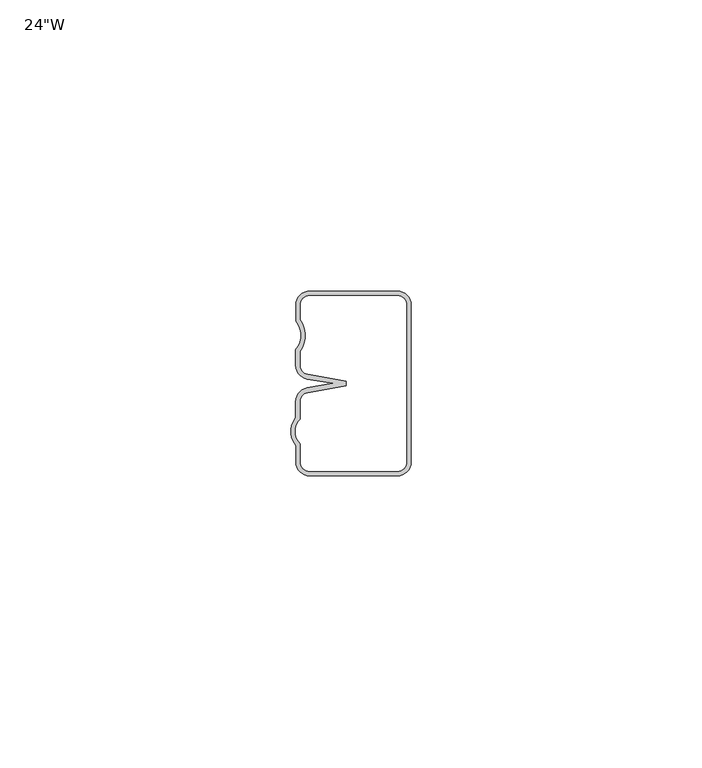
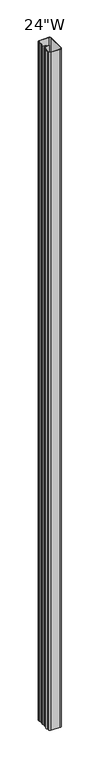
"""IFC4 building model written with IfcOpenShell, lengths in millimetres: furniture geometry."""

from ifc_helpers import new_model, si_unit, frame, origin, place, context, project, spatial, polyline, circle_curve, source, transform, mapped, element, save
from ifc_brep_helpers import plane_surface, cylinder_surface, revolved_surface, advanced_brep


def furniture_98e4637c(model_context):
    return source(origin(), model_context, "Body", "AdvancedBrep", [
        advanced_brep(
        [(17.4307493, 12.7000004, 1249.3625), (19.8119993, 15.0812504, 1249.3625), (19.8119993, 42.0510735, 1249.3625), (17.4130743, 44.4499985, 1249.3625), (2.4384001, 44.4499985, 1249.3625), (0.0, 42.0510735, 1249.3625), (0.0, 39.2275622, 1249.3625), (-0.0245942, 34.360617, 1249.3625), (-0.0245942, 31.6927299, 1249.3625), (1.9584816, 29.3357032, 1249.3625), (6.3910055, 28.566162, 1249.3625), (1.959, 27.7967107, 1249.3625), (-0.0245942, 25.439594, 1249.3625), (-0.0245942, 22.7135456, 1249.3625), (0.0, 17.9047617, 1249.3625), (0.0, 15.0812504, 1249.3625), (2.38125, 12.7000004, 1249.3625), (0.79375, 39.5025989, 1249.3625), (0.79375, 42.0510735, 1249.3625), (2.38125, 43.6385735, 1249.3625), (17.4130743, 43.6562485, 1249.3625), (19.0182493, 42.0510735, 1249.3625), (19.0182493, 15.0812504, 1249.3625), (17.4307493, 13.4937504, 1249.3625), (2.38125, 13.4937504, 1249.3625), (0.79375, 15.0812504, 1249.3625), (0.79375, 18.2153751, 1249.3625), (0.7691558, 22.4079263, 1249.3625), (0.7691558, 25.439594, 1249.3625), (2.0942554, 27.0145692, 1249.3625), (8.7111835, 28.1633502, 1249.3625), (8.7111835, 28.9689737, 1249.3625), (2.0942554, 30.1177547, 1249.3625), (0.7691558, 31.6927299, 1249.3625), (0.7691558, 34.0813213, 1249.3625), (17.4307493, 12.7000004, 130.175), (2.38125, 12.7000004, 130.175), (0.0, 15.0812504, 130.175), (0.0, 17.9047617, 130.175), (-0.0245942, 22.7135456, 130.175), (-0.0245942, 25.439594, 130.175), (1.959, 27.7967107, 130.175), (6.3910055, 28.566162, 130.175), (1.9584816, 29.3357032, 130.175), (-0.0245942, 31.6927299, 130.175), (-0.0245942, 34.360617, 130.175), (0.0, 39.2275622, 130.175), (0.0, 42.0510735, 130.175), (2.38125, 44.4323235, 130.175), (17.4130743, 44.4499985, 130.175), (19.8119993, 42.0510735, 130.175), (19.8119993, 15.0812504, 130.175), (0.79375, 39.5025989, 130.175), (0.7691558, 34.0813213, 130.175), (0.7691558, 31.6927299, 130.175), (2.0942554, 30.1177547, 130.175), (8.7111835, 28.9689737, 130.175), (8.7111835, 28.1633502, 130.175), (2.0942554, 27.0145692, 130.175), (0.7691558, 25.439594, 130.175), (0.7691558, 22.4079263, 130.175), (0.79375, 18.2153751, 130.175), (0.79375, 15.0812504, 130.175), (2.38125, 13.4937504, 130.175), (17.4307493, 13.4937504, 130.175), (19.0182493, 15.0812504, 130.175), (19.0182493, 42.0510735, 130.175), (17.4130743, 43.6562485, 130.175), (2.4384001, 43.6562485, 130.175), (0.79375, 42.0510735, 130.175)],
        [
            (0, 1, circle_curve(frame((17.4307493, 15.0812504, 1249.3625), z_axis=(0.0, 0.0, 1.0), x_axis=(1.0, 0.0, 0.0)), 2.38125)),
            (1, 2),
            (2, 3, circle_curve(frame((17.4130743, 42.0510735, 1249.3625), z_axis=(0.0, 0.0, 1.0), x_axis=(1.0, 0.0, 0.0)), 2.398925)),
            (3, 4),
            (4, 5, circle_curve(frame((2.38125, 42.0510735, 1249.3625), z_axis=(0.0, 0.0, 1.0), x_axis=(1.0, 0.0, 0.0)), 2.38125)),
            (5, 6),
            (6, 7, circle_curve(frame((-2.8600112, 36.80848, 1249.3625), z_axis=(0.0, 0.0, -1.0), x_axis=(1.0, 0.0, 0.0)), 3.7458807)),
            (7, 8),
            (8, 9, circle_curve(frame((2.3676907, 31.6927299, 1249.3625), z_axis=(0.0, 0.0, 1.0), x_axis=(1.0, 0.0, 0.0)), 2.392285)),
            (9, 10),
            (10, 11),
            (11, 12, circle_curve(frame((2.3676907, 25.439594, 1249.3625), z_axis=(0.0, 0.0, 1.0), x_axis=(1.0, 0.0, 0.0)), 2.392285)),
            (12, 13),
            (13, 14, circle_curve(frame((2.8600112, 20.3238439, 1249.3625), z_axis=(0.0, 0.0, 1.0), x_axis=(1.0, 0.0, 0.0)), 3.7458807)),
            (14, 15),
            (15, 16, circle_curve(frame((2.38125, 15.0812504, 1249.3625), z_axis=(0.0, 0.0, 1.0), x_axis=(1.0, 0.0, 0.0)), 2.38125)),
            (16, 0),
            (17, 18),
            (18, 19, circle_curve(frame((2.38125, 42.0510735, 1249.3625), z_axis=(0.0, 0.0, -1.0), x_axis=(1.0, 0.0, 0.0)), 1.5875)),
            (19, 20),
            (20, 21, circle_curve(frame((17.4130743, 42.0510735, 1249.3625), z_axis=(0.0, 0.0, -1.0), x_axis=(1.0, 0.0, 0.0)), 1.605175)),
            (21, 22),
            (22, 23, circle_curve(frame((17.4307493, 15.0812504, 1249.3625), z_axis=(0.0, 0.0, -1.0), x_axis=(1.0, 0.0, 0.0)), 1.5875)),
            (23, 24),
            (24, 25, circle_curve(frame((2.38125, 15.0812504, 1249.3625), z_axis=(0.0, 0.0, -1.0), x_axis=(1.0, 0.0, 0.0)), 1.5875)),
            (25, 26),
            (26, 27, circle_curve(frame((2.8600112, 20.3238439, 1249.3625), z_axis=(0.0, 0.0, -1.0), x_axis=(1.0, 0.0, 0.0)), 2.9521307)),
            (27, 28),
            (28, 29, circle_curve(frame((2.3676907, 25.439594, 1249.3625), z_axis=(0.0, 0.0, -1.0), x_axis=(1.0, 0.0, 0.0)), 1.598535)),
            (29, 30),
            (30, 31),
            (31, 32),
            (32, 33, circle_curve(frame((2.3676907, 31.6927299, 1249.3625), z_axis=(0.0, 0.0, -1.0), x_axis=(1.0, 0.0, 0.0)), 1.598535)),
            (33, 34),
            (34, 17, circle_curve(frame((-2.8600112, 36.80848, 1249.3625), z_axis=(0.0, 0.0, 1.0), x_axis=(1.0, 0.0, 0.0)), 4.5396307)),
            (35, 36),
            (36, 37, circle_curve(frame((2.38125, 15.0812504, 130.175), z_axis=(0.0, 0.0, -1.0), x_axis=(1.0, 0.0, 0.0)), 2.38125)),
            (37, 38),
            (38, 39, circle_curve(frame((2.8600112, 20.3238439, 130.175), z_axis=(0.0, 0.0, -1.0), x_axis=(1.0, 0.0, 0.0)), 3.7458807)),
            (39, 40),
            (40, 41, circle_curve(frame((2.3676907, 25.439594, 130.175), z_axis=(0.0, 0.0, -1.0), x_axis=(1.0, 0.0, 0.0)), 2.392285)),
            (41, 42),
            (42, 43),
            (43, 44, circle_curve(frame((2.3676907, 31.6927299, 130.175), z_axis=(0.0, 0.0, -1.0), x_axis=(1.0, 0.0, 0.0)), 2.392285)),
            (44, 45),
            (45, 46, circle_curve(frame((-2.8600112, 36.80848, 130.175), z_axis=(0.0, 0.0, 1.0), x_axis=(1.0, 0.0, 0.0)), 3.7458807)),
            (46, 47),
            (47, 48, circle_curve(frame((2.38125, 42.0510735, 130.175), z_axis=(0.0, 0.0, -1.0), x_axis=(1.0, 0.0, 0.0)), 2.38125)),
            (48, 49),
            (49, 50, circle_curve(frame((17.4130743, 42.0510735, 130.175), z_axis=(0.0, 0.0, -1.0), x_axis=(1.0, 0.0, 0.0)), 2.398925)),
            (50, 51),
            (51, 35, circle_curve(frame((17.4307493, 15.0812504, 130.175), z_axis=(0.0, 0.0, -1.0), x_axis=(1.0, 0.0, 0.0)), 2.38125)),
            (52, 53, circle_curve(frame((-2.8600112, 36.80848, 130.175), z_axis=(0.0, 0.0, -1.0), x_axis=(1.0, 0.0, 0.0)), 4.5396307)),
            (53, 54),
            (54, 55, circle_curve(frame((2.3676907, 31.6927299, 130.175), z_axis=(0.0, 0.0, 1.0), x_axis=(1.0, 0.0, 0.0)), 1.598535)),
            (55, 56),
            (56, 57),
            (57, 58),
            (58, 59, circle_curve(frame((2.3676907, 25.439594, 130.175), z_axis=(0.0, 0.0, 1.0), x_axis=(1.0, 0.0, 0.0)), 1.598535)),
            (59, 60),
            (60, 61, circle_curve(frame((2.8600112, 20.3238439, 130.175), z_axis=(0.0, 0.0, 1.0), x_axis=(1.0, 0.0, 0.0)), 2.9521307)),
            (61, 62),
            (62, 63, circle_curve(frame((2.38125, 15.0812504, 130.175), z_axis=(0.0, 0.0, 1.0), x_axis=(1.0, 0.0, 0.0)), 1.5875)),
            (63, 64),
            (64, 65, circle_curve(frame((17.4307493, 15.0812504, 130.175), z_axis=(0.0, 0.0, 1.0), x_axis=(1.0, 0.0, 0.0)), 1.5875)),
            (65, 66),
            (66, 67, circle_curve(frame((17.4130743, 42.0510735, 130.175), z_axis=(0.0, 0.0, 1.0), x_axis=(1.0, 0.0, 0.0)), 1.605175)),
            (67, 68),
            (68, 69, circle_curve(frame((2.38125, 42.0510735, 130.175), z_axis=(0.0, 0.0, 1.0), x_axis=(1.0, 0.0, 0.0)), 1.5875)),
            (69, 52),
            (0, 35),
            (51, 1),
            (50, 2),
            (49, 3),
            (48, 4),
            (47, 5),
            (46, 6),
            (45, 7),
            (44, 8),
            (43, 9),
            (42, 10),
            (41, 11),
            (40, 12),
            (39, 13),
            (38, 14),
            (37, 15),
            (36, 16),
            (17, 52),
            (69, 18),
            (68, 19),
            (67, 20),
            (66, 21),
            (65, 22),
            (64, 23),
            (63, 24),
            (62, 25),
            (61, 26),
            (60, 27),
            (59, 28),
            (58, 29),
            (57, 30),
            (31, 56),
            (55, 32),
            (54, 33),
            (53, 34),
        ],
        [
            plane_surface(frame((19.8119993, 15.0812504, 1249.3625), z_axis=(0.0, 0.0, 1.0), x_axis=(0.0, 1.0, 0.0))),
            plane_surface(frame((19.8119993, 15.0812504, 130.175), z_axis=(0.0, 0.0, -1.0), x_axis=(0.0, -1.0, 0.0))),
            cylinder_surface(frame((17.4307493, 15.0812504, 130.175), z_axis=(0.0, 0.0, 1.0), x_axis=(1.0, 0.0, 0.0)), 2.38125),
            plane_surface(frame((19.8119993, 15.0812504, 1249.3625), z_axis=(1.0, 0.0, 0.0), x_axis=(0.0, 0.0, -1.0))),
            cylinder_surface(frame((17.4130743, 42.0510735, 130.175), z_axis=(0.0, 0.0, 1.0), x_axis=(1.0, 0.0, 0.0)), 2.398925),
            plane_surface(frame((17.4130743, 44.4499985, 1249.3625), z_axis=(0.0, 1.0, 0.0), x_axis=(0.0, 0.0, -1.0))),
            cylinder_surface(frame((2.38125, 42.0510735, 130.175), z_axis=(0.0, 0.0, 1.0), x_axis=(1.0, 0.0, 0.0)), 2.38125),
            plane_surface(frame((0.0, 42.0510735, 1249.3625), z_axis=(-1.0, 0.0, 0.0), x_axis=(0.0, 0.0, -1.0))),
            revolved_surface(polyline([(0.8858694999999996, 36.80848, 130.175), (0.8858694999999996, 36.80848, 1249.3625)]), (-2.8600112, 36.80848, 130.175), (0.0, 0.0, -1.0)),
            plane_surface(frame((-0.0245942, 34.360617, 1249.3625), z_axis=(-1.0, 0.0, 0.0), x_axis=(0.0, 0.0, -1.0))),
            cylinder_surface(frame((2.3676907, 31.6927299, 130.175), z_axis=(0.0, 0.0, 1.0), x_axis=(1.0, 0.0, 0.0)), 2.392285),
            plane_surface(frame((1.9584816, 29.3357032, 1249.3625), z_axis=(-0.1710536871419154, -0.9852617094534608, 0.0), x_axis=(0.0, 0.0, -1.0))),
            plane_surface(frame((6.3910055, 28.566162, 1249.3625), z_axis=(-0.1710536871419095, 0.9852617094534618, 0.0), x_axis=(0.0, 0.0, -1.0))),
            cylinder_surface(frame((2.3676907, 25.439594, 130.175), z_axis=(0.0, 0.0, 1.0), x_axis=(1.0, 0.0, 0.0)), 2.392285),
            plane_surface(frame((-0.0245942, 25.439594, 1249.3625), z_axis=(-1.0, 0.0, 0.0), x_axis=(0.0, 0.0, -1.0))),
            cylinder_surface(frame((2.8600112, 20.3238439, 130.175), z_axis=(0.0, 0.0, 1.0), x_axis=(1.0, 0.0, 0.0)), 3.7458807),
            plane_surface(frame((0.0, 17.9047617, 1249.3625), z_axis=(-1.0, 0.0, 0.0), x_axis=(0.0, 0.0, -1.0))),
            cylinder_surface(frame((2.38125, 15.0812504, 130.175), z_axis=(0.0, 0.0, 1.0), x_axis=(1.0, 0.0, 0.0)), 2.38125),
            plane_surface(frame((2.38125, 12.7000004, 1249.3625), z_axis=(0.0, -1.0, 0.0), x_axis=(0.0, 0.0, -1.0))),
            plane_surface(frame((0.79375, 39.5025989, 1249.3625), z_axis=(1.0, 0.0, 0.0), x_axis=(0.0, 0.0, -1.0))),
            revolved_surface(polyline([(3.96875, 42.0510735, 130.175), (3.96875, 42.0510735, 1249.3625)]), (2.38125, 42.0510735, 0.0), (0.0, 0.0, -1.0)),
            plane_surface(frame((2.4384001, 43.6562485, 1249.3625), z_axis=(0.0, -1.0, 0.0), x_axis=(0.0, 0.0, -1.0))),
            revolved_surface(polyline([(19.0182493, 42.0510735, 130.175), (19.0182493, 42.0510735, 1249.3625)]), (17.4130743, 42.0510735, 0.0), (0.0, 0.0, -1.0)),
            plane_surface(frame((19.0182493, 42.0510735, 1249.3625), z_axis=(-1.0, 0.0, 0.0), x_axis=(0.0, 0.0, -1.0))),
            revolved_surface(polyline([(19.018249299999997, 15.0812504, 130.175), (19.018249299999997, 15.0812504, 1249.3625)]), (17.4307493, 15.0812504, 0.0), (0.0, 0.0, -1.0)),
            plane_surface(frame((17.4307493, 13.4937504, 1249.3625), z_axis=(0.0, 1.0, 0.0), x_axis=(0.0, 0.0, -1.0))),
            revolved_surface(polyline([(3.96875, 15.0812504, 130.175), (3.96875, 15.0812504, 1249.3625)]), (2.38125, 15.0812504, 0.0), (0.0, 0.0, -1.0)),
            plane_surface(frame((0.79375, 15.0812504, 1249.3625), z_axis=(1.0, 0.0, 0.0), x_axis=(0.0, 0.0, -1.0))),
            revolved_surface(polyline([(5.8121419, 20.3238439, 130.175), (5.8121419, 20.3238439, 1249.3625)]), (2.8600112, 20.3238439, 0.0), (0.0, 0.0, -1.0)),
            plane_surface(frame((0.7691558, 22.4079263, 1249.3625), z_axis=(1.0, 0.0, 0.0), x_axis=(0.0, 0.0, -1.0))),
            revolved_surface(polyline([(3.9662257, 25.439594, 130.175), (3.9662257, 25.439594, 1249.3625)]), (2.3676907, 25.439594, 0.0), (0.0, 0.0, -1.0)),
            plane_surface(frame((2.0942554, 27.0145692, 1249.3625), z_axis=(0.17105368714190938, -0.9852617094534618, 0.0), x_axis=(0.0, 0.0, -1.0))),
            plane_surface(frame((8.7111835, 28.9689737, 1249.3625), z_axis=(0.17105368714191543, 0.9852617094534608, 0.0), x_axis=(0.0, 0.0, -1.0))),
            revolved_surface(polyline([(3.9662257, 31.6927299, 130.175), (3.9662257, 31.6927299, 1249.3625)]), (2.3676907, 31.6927299, 0.0), (0.0, 0.0, -1.0)),
            plane_surface(frame((0.7691558, 31.6927299, 1249.3625), z_axis=(1.0, 0.0, 0.0), x_axis=(0.0, 0.0, -1.0))),
            cylinder_surface(frame((-2.8600112, 36.80848, 0.0), z_axis=(0.0, 0.0, 1.0), x_axis=(1.0, 0.0, 0.0)), 4.5396307),
            plane_surface(frame((8.7111835, 28.1633502, 1249.3625), z_axis=(1.0, 0.0, 0.0), x_axis=(0.0, 0.0, -1.0))),
        ],
        [
            (0, [[1, 2, 3, 4, 5, 6, 7, 8, 9, 10, 11, 12, 13, 14, 15, 16, 17], [18, 19, 20, 21, 22, 23, 24, 25, 26, 27, 28, 29, 30, 31, 32, 33, 34, 35]]),
            (1, [[36, 37, 38, 39, 40, 41, 42, 43, 44, 45, 46, 47, 48, 49, 50, 51, 52], [53, 54, 55, 56, 57, 58, 59, 60, 61, 62, 63, 64, 65, 66, 67, 68, 69, 70]]),
            (2, [[-1, 71, -52, 72]]),
            (3, [[-2, -72, -51, 73]]),
            (4, [[-3, -73, -50, 74]]),
            (5, [[-4, -74, -49, 75]]),
            (6, [[-5, -75, -48, 76]]),
            (7, [[-6, -76, -47, 77]]),
            (8, [[-7, -77, -46, 78]]),
            (9, [[-8, -78, -45, 79]]),
            (10, [[-9, -79, -44, 80]]),
            (11, [[-10, -80, -43, 81]]),
            (12, [[-11, -81, -42, 82]]),
            (13, [[-12, -82, -41, 83]]),
            (14, [[-13, -83, -40, 84]]),
            (15, [[-14, -84, -39, 85]]),
            (16, [[-15, -85, -38, 86]]),
            (17, [[-16, -86, -37, 87]]),
            (18, [[-17, -87, -36, -71]]),
            (19, [[-18, 88, -70, 89]]),
            (20, [[-19, -89, -69, 90]]),
            (21, [[-20, -90, -68, 91]]),
            (22, [[-21, -91, -67, 92]]),
            (23, [[-22, -92, -66, 93]]),
            (24, [[-23, -93, -65, 94]]),
            (25, [[-24, -94, -64, 95]]),
            (26, [[-25, -95, -63, 96]]),
            (27, [[-26, -96, -62, 97]]),
            (28, [[-27, -97, -61, 98]]),
            (29, [[-28, -98, -60, 99]]),
            (30, [[-29, -99, -59, 100]]),
            (31, [[-30, -100, -58, 101]]),
            (32, [[-32, 102, -56, 103]]),
            (33, [[-33, -103, -55, 104]]),
            (34, [[-34, -104, -54, 105]]),
            (35, [[-35, -105, -53, -88]]),
            (36, [[-31, -101, -57, -102]]),
        ],
    ),
    ])


if __name__ == "__main__":
    model = new_model("IFC4")
    model_context = context("Model", 3, world=origin())
    ifc_project = project(units=[si_unit("LENGTHUNIT", "METRE", prefix="MILLI")], contexts=[model_context])
    site = spatial("IfcSite", under=ifc_project)
    building = spatial("IfcBuilding", under=site)
    placement = place(None, origin())
    furniture_shape = furniture_98e4637c(model_context)
    element("IfcFurniture", 1, ObjectType="HON - Accelerate - Panel - Tackable Acoustical - 50H : 24\"W", at=placement, inside=building, context=model_context, shape_type="MappedRepresentation", body=[
        mapped(furniture_shape, transform((0.0, 0.0, 0.0), x_axis=(1.0, 0.0, 0.0), y_axis=(0.0, 1.0, 0.0), z_axis=(0.0, 0.0, 1.0))),
    ])
    save(model, "model.ifc")
